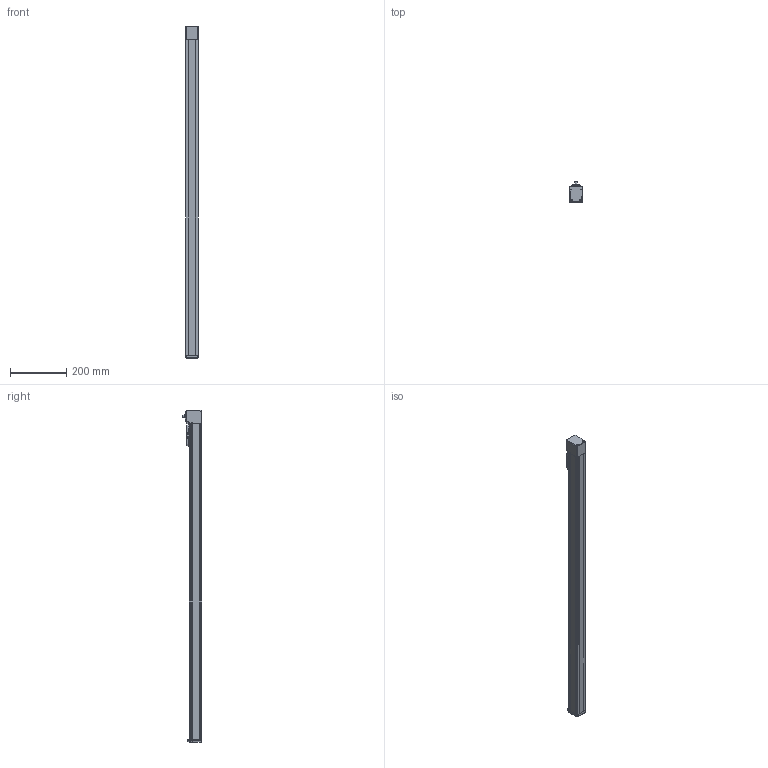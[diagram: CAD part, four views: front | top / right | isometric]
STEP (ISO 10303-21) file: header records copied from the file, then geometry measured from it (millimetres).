
FILE_DESCRIPTION(/* description */ ('STEP AP203'),/* implementation_level */ '2;1');
FILE_NAME(/* name */ 'MGTB 45 1000(0)',/* time_stamp */ '2023-04-17T14:33:42+02:00',/* author */ ('License CC BY-ND 4.0'),/* organization */ ('CADENAS'),/* preprocessor_version */ 'ST-DEVELOPER v19.3',/* originating_system */ 'PARTsolutions',/* authorisation */ ' ');
FILE_SCHEMA (('CONFIG_CONTROL_DESIGN'));
Length unit declared in the file: millimetre
Products named in the file (6): MGTB 45 1000(0); MGTB 45 1000_protection_strip; MGTB 45_carriage; MGTB 45_end_block; MGTB 45 1000_profile; MGTB 45_drive_block
Assembly tree (5 placements, depth 2):
  MGTB 45 1000(0)
    MGTB 45 1000_protection_strip
    MGTB 45_carriage
    MGTB 45_end_block
    MGTB 45 1000_profile
    MGTB 45_drive_block
Bounding box: 45 x 70.85 x 1183 mm (x, y, z)
Volume: 2305482.1 mm3; surface area: 355513.8 mm2
Topology: 5 solids, 5 shells, 689 faces, 1789 edges, 1148 vertices
Faces by surface type: plane 324, cylinder 173, cone 95, bspline 68, torus 27, sphere 2
Full cylindrical faces by diameter (mm): 1.755 x4, 2.459 x10, 2.5 x6, 3 x6, 3.242 x8, 3.8 x6, 4 x2, 4.5 x2, 5.5 x4, 6.5 x4, 8 x1, 11 x3, 12 x1, 17.12 x1, 17.5 x1, 22.5 x1, 22.88 x1, 24.5 x1, 28 x1, 34 x2
Entity records: 25091 total; most frequent: CARTESIAN_POINT 4283, DIRECTION 3440, ORIENTED_EDGE 3206, EDGE_CURVE 1603, AXIS2_PLACEMENT_3D 1244, VERTEX_POINT 1133, LINE 952, VECTOR 952
